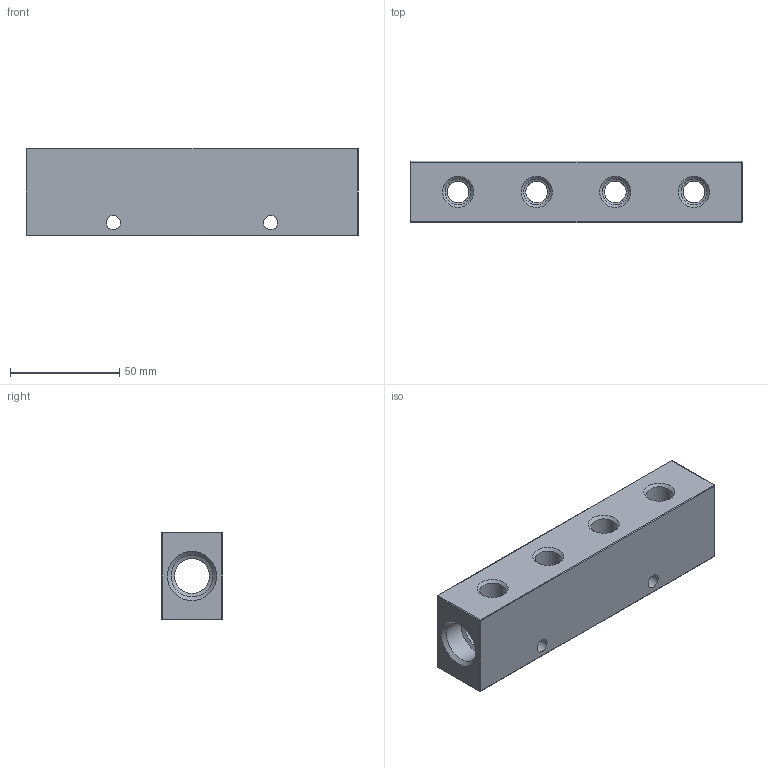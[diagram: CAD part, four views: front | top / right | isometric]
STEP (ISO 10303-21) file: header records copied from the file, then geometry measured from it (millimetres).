
FILE_DESCRIPTION(/* description */ (''),/* implementation_level */ '2;1');
FILE_NAME(/* name */ 'S:\_Tecnico\ArchivioUT\_Disegni3D ingombri\DISEGNI 3D per ingombri\RL\RL52121444.stp',/* time_stamp */ '2020-02-20T14:23:05+01:00',/* author */ ('UfficioTecnico'),/* organization */ (''),/* preprocessor_version */ 'ST-DEVELOPER v18',/* originating_system */ 'Autodesk Inventor 2020',/* authorisation */ '');
FILE_SCHEMA (('AUTOMOTIVE_DESIGN { 1 0 10303 214 3 1 1 }'));
Length unit declared in the file: millimetre
Products named in the file (1): RL51121404
Bounding box: 152 x 28 x 40 mm (x, y, z)
Volume: 125043 mm3; surface area: 33185.1 mm2
Topology: 1 solids, 1 shells, 67 faces, 169 edges, 104 vertices
Faces by surface type: cylinder 33, cone 20, sphere 8, plane 6
Full cylindrical faces by diameter (mm): 6.5 x2, 10 x8, 11.89 x8, 16 x1, 19.172 x2
Entity records: 2348 total; most frequent: CARTESIAN_POINT 613, DIRECTION 377, ORIENTED_EDGE 338, EDGE_CURVE 169, AXIS2_PLACEMENT_3D 156, VERTEX_POINT 104, EDGE_LOOP 89, CIRCLE 88
